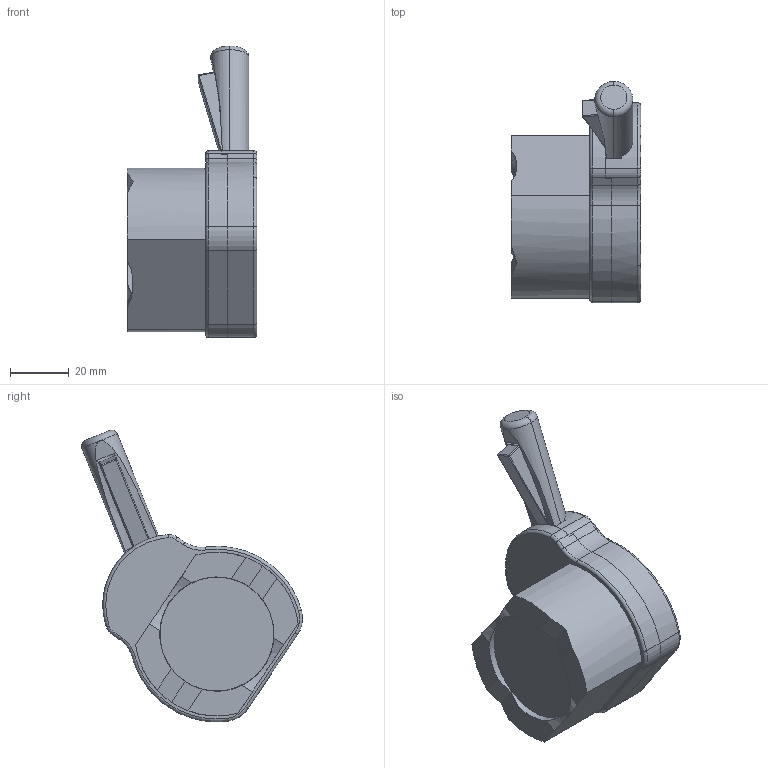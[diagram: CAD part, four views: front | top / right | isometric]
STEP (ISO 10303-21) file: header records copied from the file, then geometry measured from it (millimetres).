
FILE_DESCRIPTION (( 'STEP AP203' ), '1' );
FILE_NAME ('8000451_p.STEP', '2013-01-25T22:08:24', ( '' ), ( '' ), 'SwSTEP 2.0', 'SolidWorks 2010', '' );
FILE_SCHEMA (( 'CONFIG_CONTROL_DESIGN' ));
Length unit declared in the file: millimetre
Products named in the file (1): 8000451_p
Bounding box: 44.2 x 75.47 x 99.66 mm (x, y, z)
Surface area: 24169.9 mm2 (no closed solid volume)
Topology: 0 solids, 12 shells, 213 faces, 696 edges, 489 vertices
Faces by surface type: plane 69, cylinder 68, cone 43, torus 22, bspline 8, sphere 3
Entity records: 11073 total; most frequent: CARTESIAN_POINT 4903, DIRECTION 1381, ORIENTED_EDGE 1121, EDGE_CURVE 691, AXIS2_PLACEMENT_3D 573, VERTEX_POINT 487, CIRCLE 367, EDGE_LOOP 239
